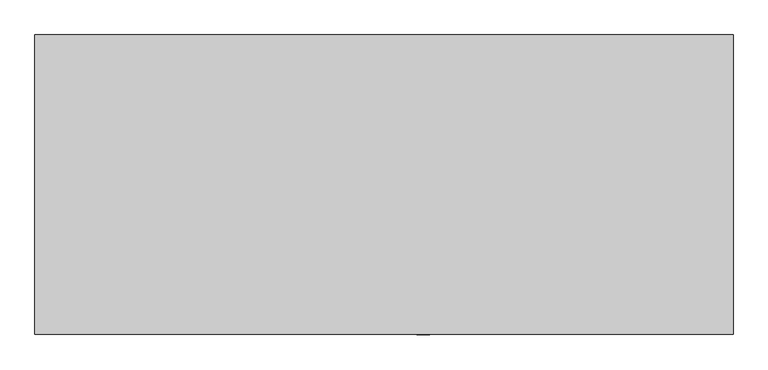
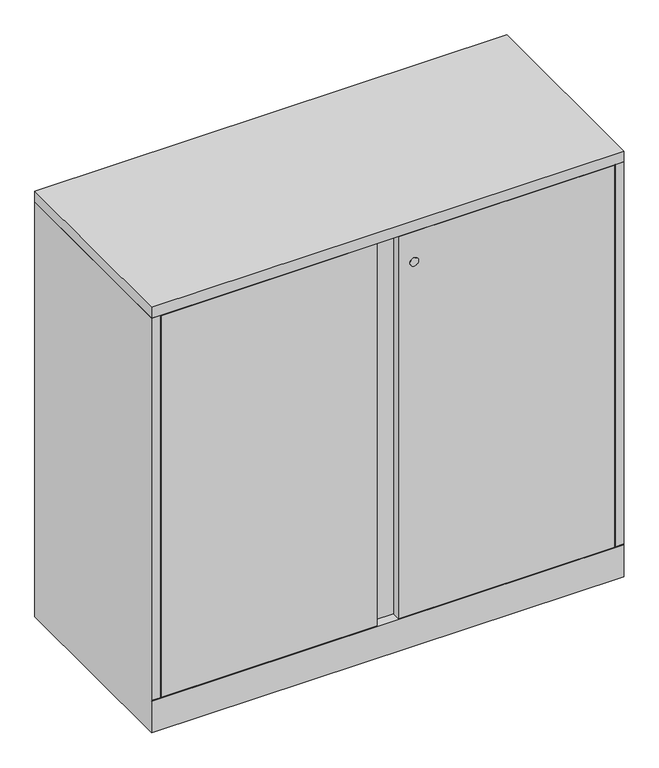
"""IFC4 building model written with IfcOpenShell, lengths in millimetres: furniture geometry, Steelcase - Universal Storage - Cabinet - Storage - 40H-52H - Flush Steel : 40H x 18D x 42W."""

from ifc_helpers import new_model, si_unit, point, frame, frame_2d, origin, place, context, project, spatial, polyline, circle_curve, trimmed, segment, composite_curve, outline, extrude, faceted_brep, source, transform, mapped, element, save


def furniture_f2585aa1(model_context):
    return source(origin(), model_context, "Body", "SolidModel", [
        extrude(outline(polyline([(1066.8, 0.0), (1066.8, -457.2), (0.0, -457.2), (0.0, 0.0), (1066.8, 0.0)])), frame((0.0, 0.0, 990.6), z_axis=(0.0, 0.0, 1.0), x_axis=(1.0, 0.0, 0.0)), (0.0, 0.0, 1.0), 25.4000484),
        extrude(outline(composite_curve([segment(trimmed(circle_curve(frame_2d((917.575, 593.2109835)), 9.7167829), [point((917.575, 602.9277664))], [point((917.575, 583.4942006))], False, "CARTESIAN"), True, "CONTINUOUS"), segment(trimmed(circle_curve(frame_2d((917.575, 593.2109835)), 9.7167829), [point((917.575, 583.4942006))], [point((917.575, 602.9277664))], False, "CARTESIAN"), True, "CONTINUOUS")], self_intersect=False)), frame((0.0, -457.8695275, 0.0), z_axis=(0.0, 1.0, 0.0), x_axis=(0.0, 0.0, 1.0)), (0.0, 0.0, 1.0), 0.6695275),
        extrude(outline(polyline([(20.8280006, -431.673866), (1045.972, -431.673866), (1045.972, -457.2), (557.53, -457.2), (557.53, -438.0238781), (509.27, -438.0238781), (509.27, -457.2), (20.8280006, -457.2), (20.8280006, -431.673866)])), frame((0.0, 0.0, 77.724), z_axis=(0.0, 0.0, 1.0), x_axis=(1.0, 0.0, 0.0)), (0.0, 0.0, 1.0), 911.606),
        faceted_brep([(1066.8, 0.0, 0.0), (1066.8, -457.2, 0.0), (0.0, -457.2, 0.0), (0.0, 0.0, 0.0), (0.0, 0.0, 990.6), (1066.8, 0.0, 990.6), (0.0, -457.2, 76.2), (0.0, -457.2, 77.724), (0.0, -457.2, 990.6), (1066.8, -457.2, 76.2), (1066.8, -457.2, 990.6), (1066.8, -457.2, 77.724), (1041.4000242, -25.4000008, 990.6), (1041.4000242, -430.1498674, 990.6), (1045.972, -430.1498674, 990.6), (1045.972, -431.6738781, 990.6), (1047.496, -431.6738781, 990.6), (1047.496, -457.2, 990.6), (19.304, -457.2, 990.6), (19.304, -431.673866, 990.6), (20.8280006, -431.673866, 990.6), (20.8280006, -430.1498674, 990.6), (25.4000008, -430.1498674, 990.6), (25.4000008, -25.4000008, 990.6), (19.304, -457.2, 77.724), (19.304, -437.896, 77.724), (1047.496, -457.2, 77.724), (1047.496, -437.7698418, 77.724), (1041.4000242, -25.4000008, 77.724), (1041.4000242, -430.1498674, 77.724), (1045.972, -430.1498674, 77.724), (1045.972, -431.6738781, 77.724), (1047.496, -431.6738781, 77.724), (19.304, -431.673866, 77.724), (20.8280006, -431.673866, 77.724), (20.8280006, -430.1498674, 77.724), (25.4000008, -430.1498674, 77.724), (25.4000008, -25.4000008, 77.724), (25.526134, -431.673866, 77.724), (1041.4000242, -431.673866, 77.724)], [[[0, 1, 2, 3]], [[0, 3, 4, 5]], [[4, 3, 2, 6, 7, 8]], [[2, 1, 9, 6]], [[1, 0, 5, 10, 11, 9]], [[12, 13, 14, 15, 16, 17, 10, 5, 4, 8, 18, 19, 20, 21, 22, 23]], [[24, 7, 25]], [[11, 26, 27]], [[13, 12, 28, 29]], [[14, 13, 29, 30]], [[15, 14, 30, 31]], [[16, 15, 31, 32]], [[17, 16, 32, 27, 26]], [[10, 17, 26, 11]], [[18, 8, 7, 24]], [[19, 18, 24, 25, 33]], [[20, 19, 33, 34]], [[21, 20, 34, 35]], [[22, 21, 35, 36]], [[23, 22, 36, 37]], [[12, 23, 37, 28]], [[38, 39, 27, 32, 31, 30, 29, 28, 37, 36, 35, 34, 33, 25]], [[7, 6, 38, 25]], [[39, 38, 6, 9]], [[39, 9, 11, 27]]]),
    ])


if __name__ == "__main__":
    model = new_model("IFC4")
    model_context = context("Model", 3, world=origin())
    ifc_project = project(units=[si_unit("LENGTHUNIT", "METRE", prefix="MILLI")], contexts=[model_context])
    site = spatial("IfcSite", under=ifc_project)
    building = spatial("IfcBuilding", under=site)
    placement = place(None, origin())
    furniture_shape = furniture_f2585aa1(model_context)
    element("IfcFurniture", 1, ObjectType="Steelcase - Universal Storage - Cabinet - Storage - 40H-52H - Flush Steel : 40H x 18D x 42W", at=placement, inside=building, context=model_context, shape_type="MappedRepresentation", body=[
        mapped(furniture_shape, transform((0.0, 0.0, 0.0), x_axis=(1.0, 0.0, 0.0), y_axis=(0.0, 1.0, 0.0), z_axis=(0.0, 0.0, 1.0))),
    ])
    save(model, "model.ifc")
